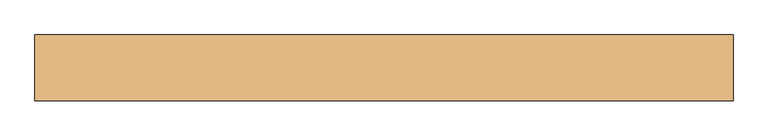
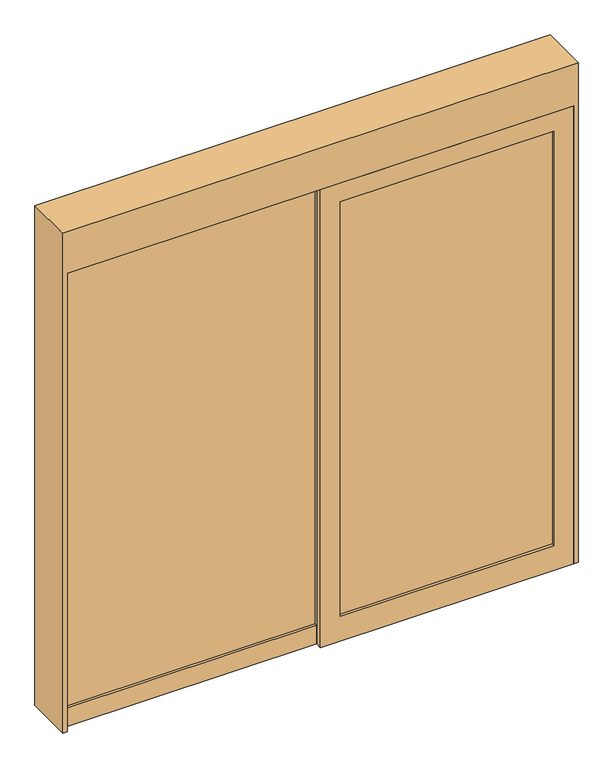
"""IFC4 building model written with IfcOpenShell, lengths in millimetres: door geometry, 片引き_自動ドア_ガラス四方框 : AD-1 w2000h2200."""

from ifc_helpers import new_model, si_unit, frame, origin, origin_with_axes, place, context, project, spatial, polyline, outline, extrude, source, transform, mapped, element, save


def door_561ce52f(model_context):
    return source(origin(), model_context, "Body", "SweptSolid", [
        extrude(outline(polyline([(25.0, -62.5), (25.0, -67.5), (-1125.0, -67.5), (-1125.0, -62.5), (25.0, -62.5)])), frame((0.0, 0.0, 90.0), z_axis=(0.0, 0.0, 1.0), x_axis=(1.0, 0.0, 0.0)), (0.0, 0.0, 1.0), 2110.0),
        extrude(outline(polyline([(25.0, -50.0), (25.0, -80.0), (-1125.0, -80.0), (-1125.0, -50.0), (25.0, -50.0)])), origin_with_axes(), (0.0, 0.0, 1.0), 90.0),
        extrude(outline(polyline([(45.0, -50.0), (45.0, -80.0), (25.0, -80.0), (25.0, -50.0), (45.0, -50.0)])), origin_with_axes(), (0.0, 0.0, 1.0), 2200.0),
        extrude(outline(polyline([(1085.0, -92.5), (1085.0, -97.5), (115.0, -97.5), (115.0, -92.5), (1085.0, -92.5)])), frame((0.0, 0.0, 120.0), z_axis=(0.0, 0.0, 1.0), x_axis=(1.0, 0.0, 0.0)), (0.0, 0.0, 1.0), 1990.0),
        extrude(outline(polyline([(2400.0, -1145.0), (0.0, -1145.0), (0.0, -1125.0), (2200.0, -1125.0), (2200.0, 1175.0), (0.0, 1175.0), (0.0, 1195.0), (2400.0, 1195.0), (2400.0, -1145.0)])), frame((0.0, -110.0, 0.0), z_axis=(0.0, 1.0, 0.0), x_axis=(0.0, 0.0, 1.0)), (0.0, 0.0, 1.0), 220.0),
        extrude(outline(polyline([(2200.0, 1175.0), (2200.0, 25.0), (0.0, 25.0), (0.0, 1175.0), (2200.0, 1175.0)]), holes=[polyline([(2110.0, 1085.0), (120.0, 1085.0), (120.0, 115.0), (2110.0, 115.0), (2110.0, 1085.0)])]), frame((0.0, -110.0, 0.0), z_axis=(0.0, 1.0, 0.0), x_axis=(0.0, 0.0, 1.0)), (0.0, 0.0, 1.0), 30.0),
    ])


if __name__ == "__main__":
    model = new_model("IFC4")
    model_context = context("Model", 3, world=origin())
    ifc_project = project(units=[si_unit("LENGTHUNIT", "METRE", prefix="MILLI")], contexts=[model_context])
    site = spatial("IfcSite", under=ifc_project)
    building = spatial("IfcBuilding", under=site)
    placement = place(None, origin())
    door_shape = door_561ce52f(model_context)
    element("IfcDoor", 1, ObjectType="片引き_自動ドア_ガラス四方框 : AD-1 w2000h2200", at=placement, inside=building, context=model_context, shape_type="MappedRepresentation", body=[
        mapped(door_shape, transform((0.0, 0.0, 0.0), x_axis=(1.0, 0.0, 0.0), y_axis=(0.0, 1.0, 0.0), z_axis=(0.0, 0.0, 1.0))),
    ])
    save(model, "model.ifc")
